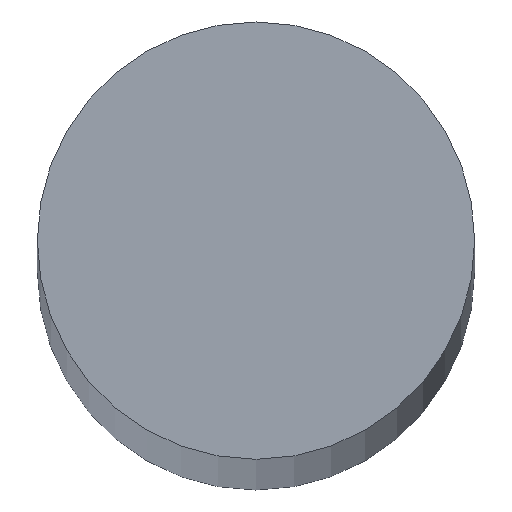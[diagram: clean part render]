
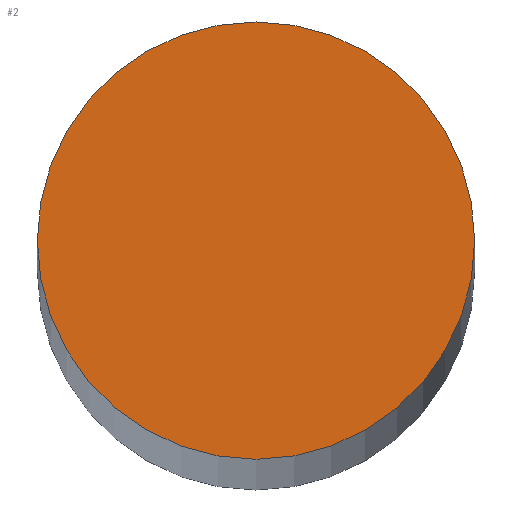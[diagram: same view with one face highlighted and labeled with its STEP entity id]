
A CAD part, top view. The second image highlights one B-rep face of the part: STEP entity #2.
In plain terms, the highlighted planar face has unit normal (0, 0, 1).
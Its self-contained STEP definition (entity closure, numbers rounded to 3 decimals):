
#2 = ADVANCED_FACE ( 'NONE', ( #106 ), #139, .T. ) ;
#6 = CARTESIAN_POINT ( 'NONE',  ( 0., 0., 241.5 ) ) ;
#11 = DIRECTION ( 'NONE',  ( 0., 0., 1. ) ) ;
#12 = DIRECTION ( 'NONE',  ( 1., 0., 0. ) ) ;
#26 = CARTESIAN_POINT ( 'NONE',  ( 0., 0., 241.5 ) ) ;
#27 = DIRECTION ( 'NONE',  ( 0., 0., 1. ) ) ;
#28 = DIRECTION ( 'NONE',  ( 1., 0., 0. ) ) ;
#29 = CARTESIAN_POINT ( 'NONE',  ( 0., 0., 241.5 ) ) ;
#30 = CARTESIAN_POINT ( 'NONE',  ( -6., 0., 241.5 ) ) ;
#31 = DIRECTION ( 'NONE',  ( 0., 0., 1. ) ) ;
#32 = DIRECTION ( 'NONE',  ( 1., 0., 0. ) ) ;
#44 = CARTESIAN_POINT ( 'NONE',  ( 6., 0., 241.5 ) ) ;
#72 = EDGE_CURVE ( 'NONE', #138, #134, #130, .T. ) ;
#73 = AXIS2_PLACEMENT_3D ( 'NONE', #26, #27, #28 ) ;
#74 = EDGE_CURVE ( 'NONE', #134, #138, #131, .T. ) ;
#77 = AXIS2_PLACEMENT_3D ( 'NONE', #29, #31, #32 ) ;
#81 = AXIS2_PLACEMENT_3D ( 'NONE', #6, #11, #12 ) ;
#106 = FACE_OUTER_BOUND ( 'NONE', #114, .T. ) ;
#114 = EDGE_LOOP ( 'NONE', ( #118, #117 ) ) ;
#117 = ORIENTED_EDGE ( 'NONE', *, *, #72, .T. ) ;
#118 = ORIENTED_EDGE ( 'NONE', *, *, #74, .T. ) ;
#130 = CIRCLE ( 'NONE', #73, 6. ) ;
#131 = CIRCLE ( 'NONE', #77, 6. ) ;
#134 = VERTEX_POINT ( 'NONE', #30 ) ;
#138 = VERTEX_POINT ( 'NONE', #44 ) ;
#139 = PLANE ( 'NONE',  #81 ) ;
